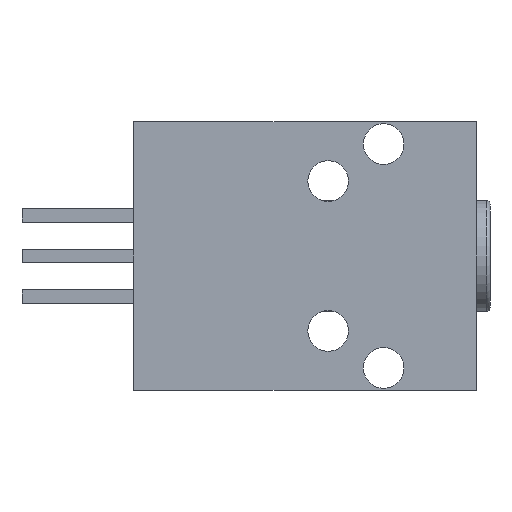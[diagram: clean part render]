
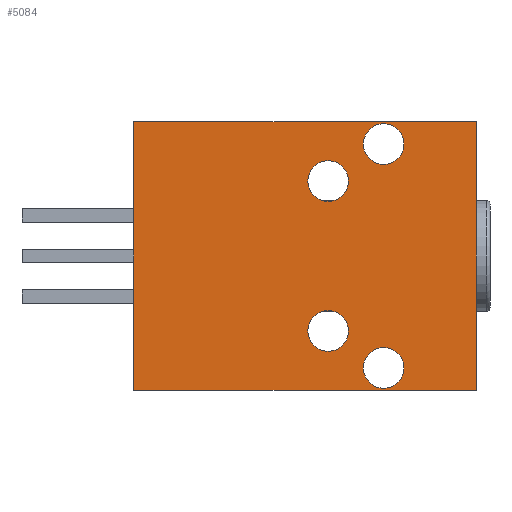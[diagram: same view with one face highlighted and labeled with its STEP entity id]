
A CAD part, front view. The second image highlights one B-rep face of the part: STEP entity #5084.
In plain terms, the highlighted planar face has unit normal (0, -1, 0).
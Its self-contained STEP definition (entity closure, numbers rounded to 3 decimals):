
#22 = DIRECTION ( 'NONE',  ( 1., 0., 0. ) ) ;
#126 = CARTESIAN_POINT ( 'NONE',  ( 1.25, 0., 4.05 ) ) ;
#206 = DIRECTION ( 'NONE',  ( 0., 0., 1. ) ) ;
#229 = CARTESIAN_POINT ( 'NONE',  ( 4.25, 0., 4.95 ) ) ;
#262 = LINE ( 'NONE', #2295, #3359 ) ;
#280 = CIRCLE ( 'NONE', #2569, 1.1 ) ;
#288 = CARTESIAN_POINT ( 'NONE',  ( 1.25, 0., -2.95 ) ) ;
#293 = EDGE_CURVE ( 'NONE', #3698, #5105, #1363, .T. ) ;
#331 = VECTOR ( 'NONE', #2951, 1000. ) ;
#361 = DIRECTION ( 'NONE',  ( 0., 1., 0. ) ) ;
#448 = EDGE_CURVE ( 'NONE', #720, #1804, #3229, .T. ) ;
#472 = EDGE_LOOP ( 'NONE', ( #1640, #2771 ) ) ;
#499 = DIRECTION ( 'NONE',  ( 0., 1., 0. ) ) ;
#537 = EDGE_CURVE ( 'NONE', #3682, #2091, #615, .T. ) ;
#545 = EDGE_LOOP ( 'NONE', ( #2511, #1126 ) ) ;
#615 = CIRCLE ( 'NONE', #2814, 1.1 ) ;
#642 = EDGE_CURVE ( 'NONE', #2091, #3682, #4982, .T. ) ;
#682 = DIRECTION ( 'NONE',  ( 0., 0., 1. ) ) ;
#720 = VERTEX_POINT ( 'NONE', #3610 ) ;
#724 = ORIENTED_EDGE ( 'NONE', *, *, #3396, .F. ) ;
#759 = CARTESIAN_POINT ( 'NONE',  ( 4.25, 0., 6.05 ) ) ;
#791 = CARTESIAN_POINT ( 'NONE',  ( 4.25, 0., -4.95 ) ) ;
#861 = CARTESIAN_POINT ( 'NONE',  ( -9.25, 0., -7.25 ) ) ;
#878 = EDGE_CURVE ( 'NONE', #1453, #4680, #3777, .T. ) ;
#925 = CARTESIAN_POINT ( 'NONE',  ( 9.25, 0., 7.25 ) ) ;
#1063 = ORIENTED_EDGE ( 'NONE', *, *, #1074, .T. ) ;
#1074 = EDGE_CURVE ( 'NONE', #1804, #720, #1348, .T. ) ;
#1126 = ORIENTED_EDGE ( 'NONE', *, *, #537, .T. ) ;
#1135 = EDGE_CURVE ( 'NONE', #5105, #3698, #280, .T. ) ;
#1207 = AXIS2_PLACEMENT_3D ( 'NONE', #3297, #3248, #4851 ) ;
#1218 = VERTEX_POINT ( 'NONE', #861 ) ;
#1233 = ORIENTED_EDGE ( 'NONE', *, *, #1925, .F. ) ;
#1295 = VERTEX_POINT ( 'NONE', #3760 ) ;
#1348 = CIRCLE ( 'NONE', #4274, 1.1 ) ;
#1363 = CIRCLE ( 'NONE', #1207, 1.1 ) ;
#1374 = VERTEX_POINT ( 'NONE', #3476 ) ;
#1415 = LINE ( 'NONE', #2237, #331 ) ;
#1453 = VERTEX_POINT ( 'NONE', #4882 ) ;
#1522 = LINE ( 'NONE', #2373, #4787 ) ;
#1640 = ORIENTED_EDGE ( 'NONE', *, *, #2840, .T. ) ;
#1705 = CIRCLE ( 'NONE', #4623, 1.1 ) ;
#1757 = PLANE ( 'NONE',  #2256 ) ;
#1804 = VERTEX_POINT ( 'NONE', #791 ) ;
#1825 = EDGE_LOOP ( 'NONE', ( #1063, #3949 ) ) ;
#1925 = EDGE_CURVE ( 'NONE', #1374, #4693, #1522, .T. ) ;
#1943 = DIRECTION ( 'NONE',  ( 0., 1., 0. ) ) ;
#1968 = CARTESIAN_POINT ( 'NONE',  ( 1.25, 0., -4.05 ) ) ;
#1981 = DIRECTION ( 'NONE',  ( 0., 0., -1. ) ) ;
#2090 = EDGE_LOOP ( 'NONE', ( #3794, #1233, #2240, #724 ) ) ;
#2091 = VERTEX_POINT ( 'NONE', #288 ) ;
#2137 = FACE_BOUND ( 'NONE', #545, .T. ) ;
#2175 = CARTESIAN_POINT ( 'NONE',  ( 4.25, 0., 7.15 ) ) ;
#2237 = CARTESIAN_POINT ( 'NONE',  ( -9.25, 0., -7.25 ) ) ;
#2240 = ORIENTED_EDGE ( 'NONE', *, *, #4760, .F. ) ;
#2256 = AXIS2_PLACEMENT_3D ( 'NONE', #4992, #4180, #2282 ) ;
#2282 = DIRECTION ( 'NONE',  ( 0., 0., -1. ) ) ;
#2295 = CARTESIAN_POINT ( 'NONE',  ( 9.25, 0., 7.25 ) ) ;
#2317 = DIRECTION ( 'NONE',  ( 0., 0., -1. ) ) ;
#2333 = DIRECTION ( 'NONE',  ( 0., 1., 0. ) ) ;
#2373 = CARTESIAN_POINT ( 'NONE',  ( -9.25, 0., 7.25 ) ) ;
#2511 = ORIENTED_EDGE ( 'NONE', *, *, #642, .T. ) ;
#2557 = FACE_OUTER_BOUND ( 'NONE', #2090, .T. ) ;
#2569 = AXIS2_PLACEMENT_3D ( 'NONE', #759, #361, #1981 ) ;
#2588 = DIRECTION ( 'NONE',  ( 0., 0., -1. ) ) ;
#2641 = DIRECTION ( 'NONE',  ( 0., 1., 0. ) ) ;
#2682 = VECTOR ( 'NONE', #682, 1000. ) ;
#2724 = AXIS2_PLACEMENT_3D ( 'NONE', #3615, #1943, #2791 ) ;
#2771 = ORIENTED_EDGE ( 'NONE', *, *, #878, .T. ) ;
#2791 = DIRECTION ( 'NONE',  ( 0., 0., 1. ) ) ;
#2814 = AXIS2_PLACEMENT_3D ( 'NONE', #3269, #4884, #4076 ) ;
#2840 = EDGE_CURVE ( 'NONE', #4680, #1453, #1705, .T. ) ;
#2934 = FACE_BOUND ( 'NONE', #472, .T. ) ;
#2939 = DIRECTION ( 'NONE',  ( 0., 0., -1. ) ) ;
#2951 = DIRECTION ( 'NONE',  ( -1., 0., 0. ) ) ;
#3164 = ORIENTED_EDGE ( 'NONE', *, *, #293, .T. ) ;
#3229 = CIRCLE ( 'NONE', #2724, 1.1 ) ;
#3248 = DIRECTION ( 'NONE',  ( 0., 1., 0. ) ) ;
#3269 = CARTESIAN_POINT ( 'NONE',  ( 1.25, 0., -4.05 ) ) ;
#3297 = CARTESIAN_POINT ( 'NONE',  ( 4.25, 0., 6.05 ) ) ;
#3359 = VECTOR ( 'NONE', #2317, 1000. ) ;
#3367 = CARTESIAN_POINT ( 'NONE',  ( 1.25, 0., 4.05 ) ) ;
#3396 = EDGE_CURVE ( 'NONE', #1295, #1218, #1415, .T. ) ;
#3476 = CARTESIAN_POINT ( 'NONE',  ( -9.25, 0., 7.25 ) ) ;
#3577 = DIRECTION ( 'NONE',  ( 0., 0., 1. ) ) ;
#3610 = CARTESIAN_POINT ( 'NONE',  ( 4.25, 0., -7.15 ) ) ;
#3615 = CARTESIAN_POINT ( 'NONE',  ( 4.25, 0., -6.05 ) ) ;
#3664 = EDGE_CURVE ( 'NONE', #4693, #1295, #262, .T. ) ;
#3682 = VERTEX_POINT ( 'NONE', #4194 ) ;
#3698 = VERTEX_POINT ( 'NONE', #229 ) ;
#3743 = CARTESIAN_POINT ( 'NONE',  ( 1.25, 0., 5.15 ) ) ;
#3744 = EDGE_LOOP ( 'NONE', ( #4343, #3164 ) ) ;
#3760 = CARTESIAN_POINT ( 'NONE',  ( 9.25, 0., -7.25 ) ) ;
#3777 = CIRCLE ( 'NONE', #5051, 1.1 ) ;
#3794 = ORIENTED_EDGE ( 'NONE', *, *, #3664, .F. ) ;
#3798 = LINE ( 'NONE', #5078, #2682 ) ;
#3949 = ORIENTED_EDGE ( 'NONE', *, *, #448, .T. ) ;
#4046 = AXIS2_PLACEMENT_3D ( 'NONE', #1968, #5160, #3577 ) ;
#4076 = DIRECTION ( 'NONE',  ( 0., 0., 1. ) ) ;
#4107 = FACE_BOUND ( 'NONE', #3744, .T. ) ;
#4180 = DIRECTION ( 'NONE',  ( 0., -1., 0. ) ) ;
#4194 = CARTESIAN_POINT ( 'NONE',  ( 1.25, 0., -5.15 ) ) ;
#4274 = AXIS2_PLACEMENT_3D ( 'NONE', #4728, #2333, #206 ) ;
#4343 = ORIENTED_EDGE ( 'NONE', *, *, #1135, .T. ) ;
#4540 = FACE_BOUND ( 'NONE', #1825, .T. ) ;
#4623 = AXIS2_PLACEMENT_3D ( 'NONE', #126, #499, #2939 ) ;
#4680 = VERTEX_POINT ( 'NONE', #3743 ) ;
#4693 = VERTEX_POINT ( 'NONE', #925 ) ;
#4728 = CARTESIAN_POINT ( 'NONE',  ( 4.25, 0., -6.05 ) ) ;
#4760 = EDGE_CURVE ( 'NONE', #1218, #1374, #3798, .T. ) ;
#4787 = VECTOR ( 'NONE', #22, 1000. ) ;
#4851 = DIRECTION ( 'NONE',  ( 0., 0., -1. ) ) ;
#4882 = CARTESIAN_POINT ( 'NONE',  ( 1.25, 0., 2.95 ) ) ;
#4884 = DIRECTION ( 'NONE',  ( 0., 1., 0. ) ) ;
#4982 = CIRCLE ( 'NONE', #4046, 1.1 ) ;
#4992 = CARTESIAN_POINT ( 'NONE',  ( 0., 0., 0. ) ) ;
#5051 = AXIS2_PLACEMENT_3D ( 'NONE', #3367, #2641, #2588 ) ;
#5078 = CARTESIAN_POINT ( 'NONE',  ( -9.25, 0., 7.25 ) ) ;
#5084 = ADVANCED_FACE ( 'NONE', ( #4107, #2137, #2934, #4540, #2557 ), #1757, .T. ) ;
#5105 = VERTEX_POINT ( 'NONE', #2175 ) ;
#5160 = DIRECTION ( 'NONE',  ( 0., 1., 0. ) ) ;
